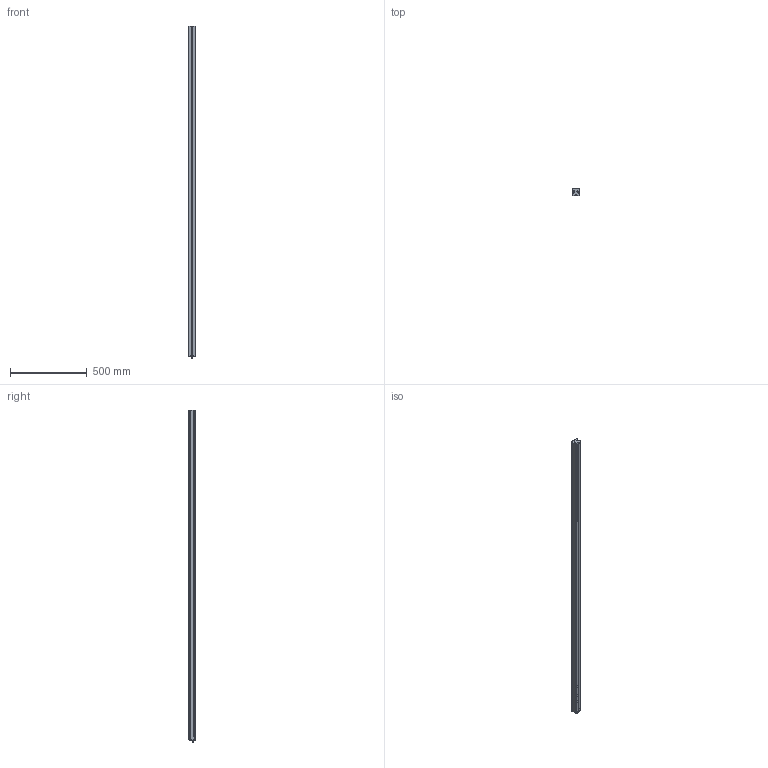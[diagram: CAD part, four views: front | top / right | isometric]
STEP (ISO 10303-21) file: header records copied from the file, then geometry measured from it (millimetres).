
FILE_DESCRIPTION (( 'STEP AP214' ), '1' );
FILE_NAME ('EBAR-HPS-2125-xxx-UN_CLIENT.STEP', '2025-11-18T13:09:11', ( '' ), ( '' ), 'SwSTEP 2.0', 'SolidWorks 2025', '' );
FILE_SCHEMA (( 'AUTOMOTIVE_DESIGN' ));
Length unit declared in the file: millimetre
Products named in the file (3): EBAR-HPS-2125-xxx-UN_CLIENT; EBAR-HPS-xxx-xxx-xx_CLIENT - T-Power_2125; M4 T-Slot Nut
Assembly tree (37 placements, depth 2):
  EBAR-HPS-2125-xxx-UN_CLIENT
    EBAR-HPS-xxx-xxx-xx_CLIENT - T-Power_2125
    M4 T-Slot Nut  x36
Bounding box: 47.63 x 45 x 2170.06 mm (x, y, z)
Volume: 3659983.7 mm3; surface area: 522506.6 mm2
Topology: 37 solids, 37 shells, 1424 faces, 3688 edges, 2428 vertices
Faces by surface type: plane 799, cylinder 371, bspline 140, torus 62, sphere 40, cone 12
Entity records: 29649 total; most frequent: CARTESIAN_POINT 10335, ORIENTED_EDGE 4138, DIRECTION 3640, EDGE_CURVE 2069, VERTEX_POINT 1343, AXIS2_PLACEMENT_3D 1252, LINE 1136, VECTOR 1136
